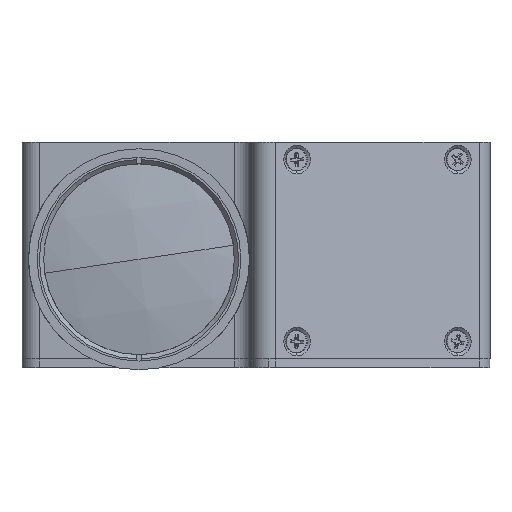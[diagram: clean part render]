
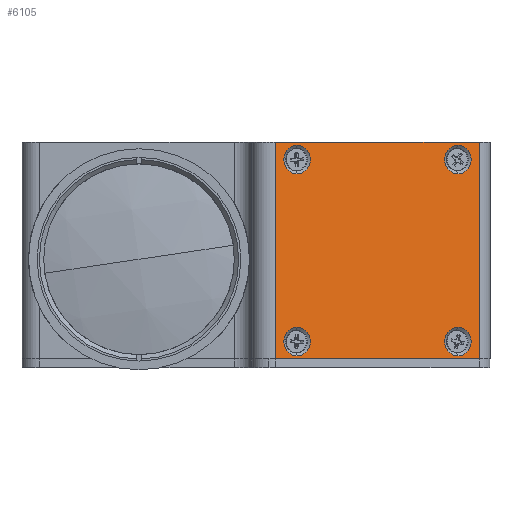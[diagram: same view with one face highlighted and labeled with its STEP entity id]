
A CAD part, left-side view. The second image highlights one B-rep face of the part: STEP entity #6105.
In plain terms, the highlighted planar face has unit normal (-0.927, -0.375, 0).
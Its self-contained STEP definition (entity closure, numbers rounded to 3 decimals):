
#61 = EDGE_CURVE ( 'NONE', #10862, #18834, #8359, .T. ) ;
#316 = CARTESIAN_POINT ( 'NONE',  ( 69.017, -78.498, 2. ) ) ;
#405 = LINE ( 'NONE', #3921, #16436 ) ;
#490 = DIRECTION ( 'NONE',  ( 0., 0., 1. ) ) ;
#623 = LINE ( 'NONE', #25707, #16030 ) ;
#737 = EDGE_CURVE ( 'NONE', #22416, #17222, #4751, .T. ) ;
#740 = CARTESIAN_POINT ( 'NONE',  ( 52.046, -36.495, -19. ) ) ;
#831 = CARTESIAN_POINT ( 'NONE',  ( 71.526, -84.709, -23. ) ) ;
#1080 = LINE ( 'NONE', #316, #1735 ) ;
#1292 = FACE_OUTER_BOUND ( 'NONE', #8370, .T. ) ;
#1311 = DIRECTION ( 'NONE',  ( -0.927, -0.375, 0. ) ) ;
#1410 = VERTEX_POINT ( 'NONE', #20288 ) ;
#1735 = VECTOR ( 'NONE', #4257, 1000. ) ;
#1949 = CARTESIAN_POINT ( 'NONE',  ( 52.046, -36.495, 23. ) ) ;
#2003 = ORIENTED_EDGE ( 'NONE', *, *, #21025, .T. ) ;
#2040 = EDGE_LOOP ( 'NONE', ( #8429, #7747 ) ) ;
#2069 = EDGE_CURVE ( 'NONE', #4248, #18834, #623, .T. ) ;
#2147 = EDGE_CURVE ( 'NONE', #17222, #22416, #5341, .T. ) ;
#2910 = CARTESIAN_POINT ( 'NONE',  ( 67.03, -73.583, -22.3 ) ) ;
#3233 = CARTESIAN_POINT ( 'NONE',  ( 59.669, -55.363, 2. ) ) ;
#3831 = EDGE_LOOP ( 'NONE', ( #22248, #7749 ) ) ;
#3921 = CARTESIAN_POINT ( 'NONE',  ( 71.526, -84.709, 27. ) ) ;
#3922 = DIRECTION ( 'NONE',  ( -0.927, -0.375, 0. ) ) ;
#3943 = DIRECTION ( 'NONE',  ( 0., 0., 1. ) ) ;
#4113 = EDGE_CURVE ( 'NONE', #4713, #21519, #15321, .T. ) ;
#4248 = VERTEX_POINT ( 'NONE', #15482 ) ;
#4257 = DIRECTION ( 'NONE',  ( 0., 0., 1. ) ) ;
#4449 = DIRECTION ( 'NONE',  ( -0.927, -0.375, 0. ) ) ;
#4663 = AXIS2_PLACEMENT_3D ( 'NONE', #1949, #15985, #3943 ) ;
#4678 = CARTESIAN_POINT ( 'NONE',  ( 52.046, -36.495, 26.3 ) ) ;
#4713 = VERTEX_POINT ( 'NONE', #23034 ) ;
#4751 = CIRCLE ( 'NONE', #16783, 3.3 ) ;
#5162 = VERTEX_POINT ( 'NONE', #22582 ) ;
#5229 = ORIENTED_EDGE ( 'NONE', *, *, #9687, .F. ) ;
#5264 = DIRECTION ( 'NONE',  ( 0., 0., 1. ) ) ;
#5341 = CIRCLE ( 'NONE', #21989, 3.3 ) ;
#5382 = CARTESIAN_POINT ( 'NONE',  ( 52.046, -36.495, 23. ) ) ;
#5823 = VERTEX_POINT ( 'NONE', #8441 ) ;
#6105 = ADVANCED_FACE ( 'NONE', ( #17322, #7270, #6643, #22615, #1292 ), #23237, .T. ) ;
#6643 = FACE_BOUND ( 'NONE', #2040, .T. ) ;
#6911 = AXIS2_PLACEMENT_3D ( 'NONE', #23001, #11039, #25030 ) ;
#7270 = FACE_BOUND ( 'NONE', #20086, .T. ) ;
#7403 = DIRECTION ( 'NONE',  ( 0., 0., 1. ) ) ;
#7448 = CARTESIAN_POINT ( 'NONE',  ( 52.046, -36.495, 19.7 ) ) ;
#7549 = ORIENTED_EDGE ( 'NONE', *, *, #13756, .F. ) ;
#7658 = AXIS2_PLACEMENT_3D ( 'NONE', #15964, #3922, #17990 ) ;
#7747 = ORIENTED_EDGE ( 'NONE', *, *, #737, .F. ) ;
#7749 = ORIENTED_EDGE ( 'NONE', *, *, #22299, .F. ) ;
#7840 = CARTESIAN_POINT ( 'NONE',  ( 67.03, -73.583, -19. ) ) ;
#7927 = DIRECTION ( 'NONE',  ( -0.927, -0.375, 0. ) ) ;
#8359 = LINE ( 'NONE', #831, #23706 ) ;
#8370 = EDGE_LOOP ( 'NONE', ( #8992, #2003, #18066, #12420 ) ) ;
#8429 = ORIENTED_EDGE ( 'NONE', *, *, #2147, .F. ) ;
#8441 = CARTESIAN_POINT ( 'NONE',  ( 67.03, -73.583, 26.3 ) ) ;
#8992 = ORIENTED_EDGE ( 'NONE', *, *, #61, .F. ) ;
#9670 = DIRECTION ( 'NONE',  ( 0., 0., -1. ) ) ;
#9687 = EDGE_CURVE ( 'NONE', #18500, #24674, #10663, .T. ) ;
#9849 = DIRECTION ( 'NONE',  ( 0., 0., 1. ) ) ;
#10226 = DIRECTION ( 'NONE',  ( -0.375, 0.927, 0. ) ) ;
#10381 = EDGE_LOOP ( 'NONE', ( #7549, #5229 ) ) ;
#10663 = CIRCLE ( 'NONE', #23097, 3.3 ) ;
#10862 = VERTEX_POINT ( 'NONE', #15714 ) ;
#11039 = DIRECTION ( 'NONE',  ( -0.927, -0.375, 0. ) ) ;
#12368 = CIRCLE ( 'NONE', #7658, 3.3 ) ;
#12420 = ORIENTED_EDGE ( 'NONE', *, *, #2069, .T. ) ;
#12614 = AXIS2_PLACEMENT_3D ( 'NONE', #7840, #21828, #9849 ) ;
#13351 = CARTESIAN_POINT ( 'NONE',  ( 67.03, -73.583, 23. ) ) ;
#13756 = EDGE_CURVE ( 'NONE', #24674, #18500, #23003, .T. ) ;
#14516 = EDGE_CURVE ( 'NONE', #4248, #5162, #405, .T. ) ;
#14934 = CIRCLE ( 'NONE', #21719, 3.3 ) ;
#15261 = EDGE_CURVE ( 'NONE', #21519, #4713, #19845, .T. ) ;
#15321 = CIRCLE ( 'NONE', #6911, 3.3 ) ;
#15323 = ORIENTED_EDGE ( 'NONE', *, *, #15261, .F. ) ;
#15365 = DIRECTION ( 'NONE',  ( 0., 0., 1. ) ) ;
#15482 = CARTESIAN_POINT ( 'NONE',  ( 50.035, -31.516, 27. ) ) ;
#15714 = CARTESIAN_POINT ( 'NONE',  ( 69.017, -78.498, -23. ) ) ;
#15964 = CARTESIAN_POINT ( 'NONE',  ( 67.03, -73.583, 23. ) ) ;
#15985 = DIRECTION ( 'NONE',  ( -0.927, -0.375, 0. ) ) ;
#16030 = VECTOR ( 'NONE', #9670, 1000. ) ;
#16436 = VECTOR ( 'NONE', #19973, 1000. ) ;
#16469 = CARTESIAN_POINT ( 'NONE',  ( 52.046, -36.495, -15.7 ) ) ;
#16783 = AXIS2_PLACEMENT_3D ( 'NONE', #740, #4449, #490 ) ;
#17222 = VERTEX_POINT ( 'NONE', #16469 ) ;
#17306 = DIRECTION ( 'NONE',  ( -0.927, -0.375, 0. ) ) ;
#17322 = FACE_BOUND ( 'NONE', #3831, .T. ) ;
#17688 = CARTESIAN_POINT ( 'NONE',  ( 52.046, -36.495, -22.3 ) ) ;
#17871 = AXIS2_PLACEMENT_3D ( 'NONE', #3233, #17306, #5264 ) ;
#17990 = DIRECTION ( 'NONE',  ( 0., 0., 1. ) ) ;
#18066 = ORIENTED_EDGE ( 'NONE', *, *, #14516, .F. ) ;
#18500 = VERTEX_POINT ( 'NONE', #7448 ) ;
#18834 = VERTEX_POINT ( 'NONE', #21236 ) ;
#19403 = DIRECTION ( 'NONE',  ( -0.927, -0.375, 0. ) ) ;
#19845 = CIRCLE ( 'NONE', #12614, 3.3 ) ;
#19912 = CARTESIAN_POINT ( 'NONE',  ( 52.046, -36.495, -19. ) ) ;
#19973 = DIRECTION ( 'NONE',  ( 0.375, -0.927, 0. ) ) ;
#20086 = EDGE_LOOP ( 'NONE', ( #24885, #15323 ) ) ;
#20288 = CARTESIAN_POINT ( 'NONE',  ( 67.03, -73.583, 19.7 ) ) ;
#20819 = EDGE_CURVE ( 'NONE', #5823, #1410, #14934, .T. ) ;
#21025 = EDGE_CURVE ( 'NONE', #10862, #5162, #1080, .T. ) ;
#21236 = CARTESIAN_POINT ( 'NONE',  ( 50.035, -31.516, -23. ) ) ;
#21519 = VERTEX_POINT ( 'NONE', #2910 ) ;
#21719 = AXIS2_PLACEMENT_3D ( 'NONE', #13351, #1311, #15365 ) ;
#21828 = DIRECTION ( 'NONE',  ( -0.927, -0.375, 0. ) ) ;
#21924 = DIRECTION ( 'NONE',  ( 0., 0., 1. ) ) ;
#21989 = AXIS2_PLACEMENT_3D ( 'NONE', #19912, #7927, #21924 ) ;
#22248 = ORIENTED_EDGE ( 'NONE', *, *, #20819, .F. ) ;
#22299 = EDGE_CURVE ( 'NONE', #1410, #5823, #12368, .T. ) ;
#22416 = VERTEX_POINT ( 'NONE', #17688 ) ;
#22582 = CARTESIAN_POINT ( 'NONE',  ( 69.017, -78.498, 27. ) ) ;
#22615 = FACE_BOUND ( 'NONE', #10381, .T. ) ;
#23001 = CARTESIAN_POINT ( 'NONE',  ( 67.03, -73.583, -19. ) ) ;
#23003 = CIRCLE ( 'NONE', #4663, 3.3 ) ;
#23034 = CARTESIAN_POINT ( 'NONE',  ( 67.03, -73.583, -15.7 ) ) ;
#23097 = AXIS2_PLACEMENT_3D ( 'NONE', #5382, #19403, #7403 ) ;
#23237 = PLANE ( 'NONE',  #17871 ) ;
#23706 = VECTOR ( 'NONE', #10226, 1000. ) ;
#24674 = VERTEX_POINT ( 'NONE', #4678 ) ;
#24885 = ORIENTED_EDGE ( 'NONE', *, *, #4113, .F. ) ;
#25030 = DIRECTION ( 'NONE',  ( 0., 0., 1. ) ) ;
#25707 = CARTESIAN_POINT ( 'NONE',  ( 50.035, -31.516, 2. ) ) ;
